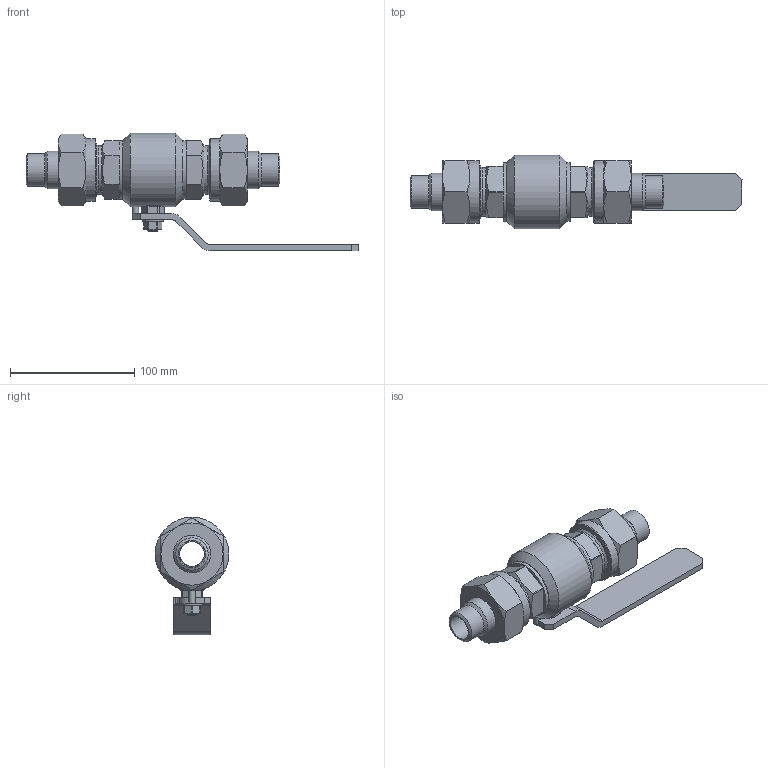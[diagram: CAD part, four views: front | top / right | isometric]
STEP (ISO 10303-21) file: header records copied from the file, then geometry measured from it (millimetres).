
FILE_DESCRIPTION(('STEP AP203'), '1');
FILE_NAME('ZARDP 020.100.30.P.stp', '2013-12-05T12:59:30', ('1'), ('1'), 'ASCON STEP Converter 1.3', 'Kompas 3D', '');
FILE_SCHEMA(('CONFIG_CONTROL_DESIGN','SUPPORT_RESOURCE_SCHEMA'));
Length unit declared in the file: millimetre
Products named in the file (1): 203
Bounding box: 267 x 59.3 x 94.65 mm (x, y, z)
Volume: 281759.1 mm3; surface area: 75222.4 mm2
Topology: 1 solids, 5 shells, 268 faces, 622 edges, 385 vertices
Faces by surface type: plane 130, cylinder 69, cone 62, bspline 4, torus 3
Full cylindrical faces by diameter (mm): 5 x2, 8 x1, 10.7 x1, 10.917 x1, 12 x1, 12.1 x1, 19.8 x1, 20 x6, 26 x2, 30 x4, 33.3 x2, 38.4 x1, 39 x2, 39.835 x2, 42 x2, 47 x2, 50 x2, 59.3 x1
Entity records: 10235 total; most frequent: CARTESIAN_POINT 4018, DIRECTION 1326, ORIENTED_EDGE 1244, EDGE_CURVE 622, AXIS2_PLACEMENT_3D 529, VERTEX_POINT 385, EDGE_LOOP 297, ADVANCED_FACE 268
